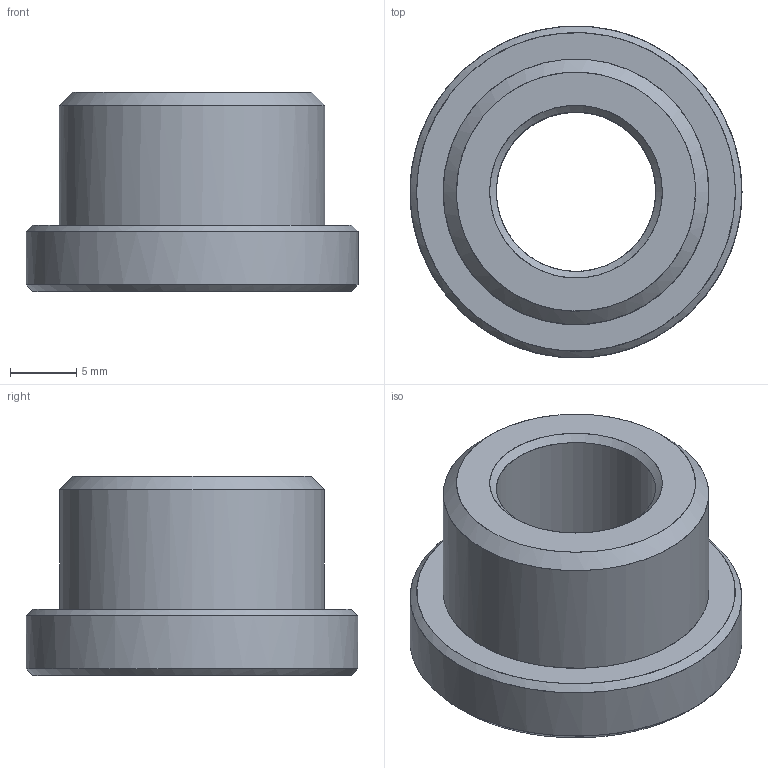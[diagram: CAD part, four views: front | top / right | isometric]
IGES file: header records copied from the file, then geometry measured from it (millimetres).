
Start section: Missler Software 3 rue Hermes, EUROPARC, 31520 Ramonville-Saint-Agne, France Tel   : +33 (0)5 61 00 03 00 Fax   : +33 (0)5 61 00 03 03 Email : sup.solid@topsolid.com
Global section: file name: D:\Diversos\Projetos\ININE\Documentos\Clientes\Top Fusion\Estudos\Bucha de redução.igs; native system: TopSolid v614200 Missler Software; preprocessor: IGES preprocessor v100000; author: Usuario; date: 170310.114445; units: microinch
Bounding box: 25 x 24.97 x 15 mm (x, y, z)
Surface area: 2238.7 mm2 (no closed solid volume)
Topology: 0 solids, 0 shells, 11 faces, 199 edges, 196 vertices
Faces by surface type: bspline 11
